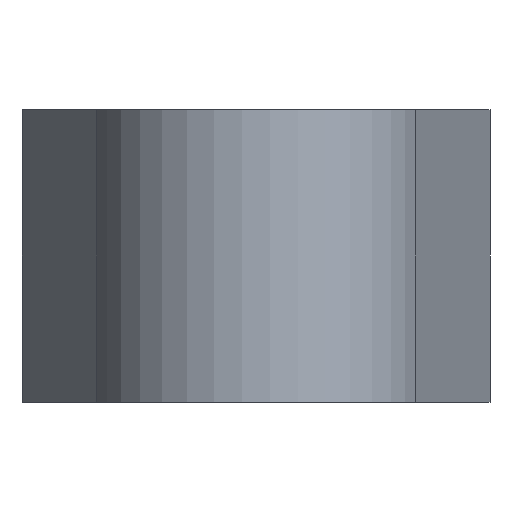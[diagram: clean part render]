
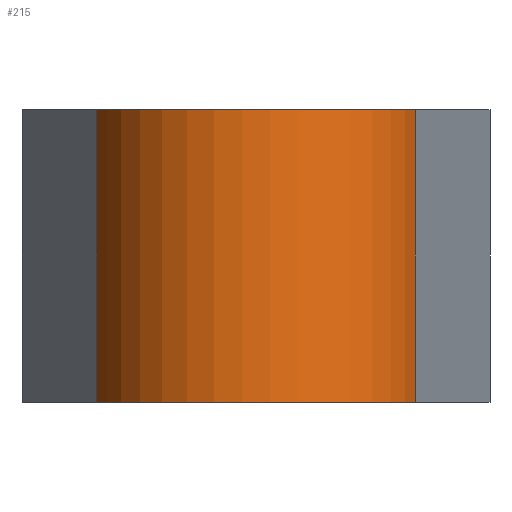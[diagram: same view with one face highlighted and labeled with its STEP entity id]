
A CAD part, left-side view. The second image highlights one B-rep face of the part: STEP entity #215.
In plain terms, the highlighted cylindrical face has radius 17 mm (diameter 34 mm), a partial arc.
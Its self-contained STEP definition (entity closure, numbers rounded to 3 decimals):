
#127=CYLINDRICAL_SURFACE('',#827,17.);
#156=CIRCLE('',#825,17.);
#157=CIRCLE('',#826,17.);
#215=ADVANCED_FACE('',(#272),#127,.T.);
#272=FACE_OUTER_BOUND('',#306,.T.);
#306=EDGE_LOOP('',(#387,#388,#389,#390));
#387=ORIENTED_EDGE('',*,*,#644,.F.);
#388=ORIENTED_EDGE('',*,*,#647,.T.);
#389=ORIENTED_EDGE('',*,*,#627,.T.);
#390=ORIENTED_EDGE('',*,*,#648,.F.);
#561=VERTEX_POINT('',#1162);
#562=VERTEX_POINT('',#1164);
#573=VERTEX_POINT('',#1198);
#574=VERTEX_POINT('',#1199);
#627=EDGE_CURVE('',#562,#561,#727,.T.);
#644=EDGE_CURVE('',#573,#574,#740,.T.);
#647=EDGE_CURVE('',#573,#562,#156,.T.);
#648=EDGE_CURVE('',#574,#561,#157,.T.);
#727=LINE('',#1163,#771);
#740=LINE('',#1197,#784);
#771=VECTOR('',#917,1.);
#784=VECTOR('',#950,1.);
#825=AXIS2_PLACEMENT_3D('',#1203,#955,#956);
#826=AXIS2_PLACEMENT_3D('',#1204,#957,#958);
#827=AXIS2_PLACEMENT_3D('',#1205,#959,#960);
#917=DIRECTION('',(0.,0.,1.));
#950=DIRECTION('',(0.,0.,1.));
#955=DIRECTION('',(0.,0.,1.));
#956=DIRECTION('',(1.,0.,0.));
#957=DIRECTION('',(0.,0.,1.));
#958=DIRECTION('',(1.,0.,0.));
#959=DIRECTION('',(0.,0.,1.));
#960=DIRECTION('',(-1.,0.,0.));
#1162=CARTESIAN_POINT('',(-4.69,-16.34,30.));
#1163=CARTESIAN_POINT('',(-4.69,-16.34,0.));
#1164=CARTESIAN_POINT('',(-4.69,-16.34,0.));
#1197=CARTESIAN_POINT('',(-4.69,16.34,0.));
#1198=CARTESIAN_POINT('',(-4.69,16.34,0.));
#1199=CARTESIAN_POINT('',(-4.69,16.34,30.));
#1203=CARTESIAN_POINT('',(0.,0.,0.));
#1204=CARTESIAN_POINT('',(0.,0.,30.));
#1205=CARTESIAN_POINT('',(0.,0.,0.));
